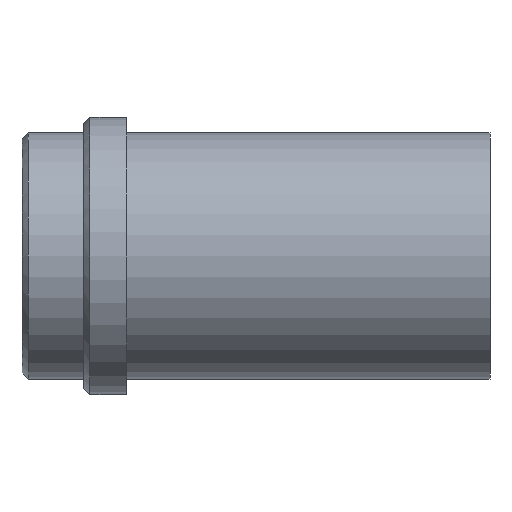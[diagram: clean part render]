
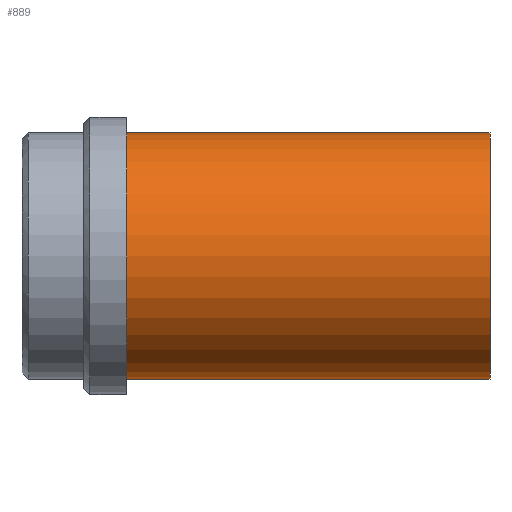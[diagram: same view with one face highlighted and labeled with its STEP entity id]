
A CAD part, front view. The second image highlights one B-rep face of the part: STEP entity #889.
In plain terms, the highlighted cylindrical face has radius 20 mm (diameter 40 mm), a partial arc.
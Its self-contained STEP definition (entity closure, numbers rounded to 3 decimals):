
#723=CARTESIAN_POINT('Vertex',(59.,0.,20.)) ;
#726=CARTESIAN_POINT('Axis2P3D Location',(59.,0.,0.)) ;
#730=CARTESIAN_POINT('Vertex',(59.,-20.,0.)) ;
#733=CARTESIAN_POINT('Axis2P3D Location',(59.,0.,0.)) ;
#737=CARTESIAN_POINT('Vertex',(59.,0.,-20.)) ;
#829=CARTESIAN_POINT('Line Origine',(59.,0.,20.)) ;
#833=CARTESIAN_POINT('Vertex',(0.,0.,20.)) ;
#836=CARTESIAN_POINT('Line Origine',(59.,0.,-20.)) ;
#840=CARTESIAN_POINT('Vertex',(0.,0.,-20.)) ;
#864=CARTESIAN_POINT('Axis2P3D Location',(59.,0.,0.)) ;
#869=CARTESIAN_POINT('Axis2P3D Location',(0.,0.,0.)) ;
#873=CARTESIAN_POINT('Vertex',(0.,-20.,0.)) ;
#876=CARTESIAN_POINT('Axis2P3D Location',(0.,0.,0.)) ;
#727=DIRECTION('Axis2P3D Direction',(1.,0.,-0.)) ;
#734=DIRECTION('Axis2P3D Direction',(1.,0.,-0.)) ;
#830=DIRECTION('Vector Direction',(-1.,0.,0.)) ;
#837=DIRECTION('Vector Direction',(-1.,0.,0.)) ;
#865=DIRECTION('Axis2P3D Direction',(-1.,-0.,-0.)) ;
#866=DIRECTION('Axis2P3D XDirection',(0.,0.,-1.)) ;
#870=DIRECTION('Axis2P3D Direction',(-1.,-0.,-0.)) ;
#877=DIRECTION('Axis2P3D Direction',(-1.,-0.,-0.)) ;
#728=AXIS2_PLACEMENT_3D('Circle Axis2P3D',#726,#727,$) ;
#735=AXIS2_PLACEMENT_3D('Circle Axis2P3D',#733,#734,$) ;
#867=AXIS2_PLACEMENT_3D('Cylinder Axis2P3D',#864,#865,#866) ;
#871=AXIS2_PLACEMENT_3D('Circle Axis2P3D',#869,#870,$) ;
#878=AXIS2_PLACEMENT_3D('Circle Axis2P3D',#876,#877,$) ;
#882=ORIENTED_EDGE('',*,*,#842,.T.) ;
#883=ORIENTED_EDGE('',*,*,#739,.F.) ;
#884=ORIENTED_EDGE('',*,*,#732,.F.) ;
#885=ORIENTED_EDGE('',*,*,#835,.T.) ;
#886=ORIENTED_EDGE('',*,*,#875,.T.) ;
#887=ORIENTED_EDGE('',*,*,#880,.T.) ;
#831=VECTOR('Line Direction',#830,1.) ;
#838=VECTOR('Line Direction',#837,1.) ;
#889=ADVANCED_FACE('358-32X76',(#888),#868,.T.) ;
#729=CIRCLE('generated circle',#728,20.) ;
#736=CIRCLE('generated circle',#735,20.) ;
#872=CIRCLE('generated circle',#871,20.) ;
#879=CIRCLE('generated circle',#878,20.) ;
#868=CYLINDRICAL_SURFACE('generated cylinder',#867,20.) ;
#732=EDGE_CURVE('',#724,#731,#729,.T.) ;
#739=EDGE_CURVE('',#731,#738,#736,.T.) ;
#835=EDGE_CURVE('',#724,#834,#832,.T.) ;
#842=EDGE_CURVE('',#841,#738,#839,.F.) ;
#875=EDGE_CURVE('',#834,#874,#872,.F.) ;
#880=EDGE_CURVE('',#874,#841,#879,.F.) ;
#881=EDGE_LOOP('',(#882,#883,#884,#885,#886,#887)) ;
#888=FACE_OUTER_BOUND('',#881,.T.) ;
#832=LINE('Line',#829,#831) ;
#839=LINE('Line',#836,#838) ;
#724=VERTEX_POINT('',#723) ;
#731=VERTEX_POINT('',#730) ;
#738=VERTEX_POINT('',#737) ;
#834=VERTEX_POINT('',#833) ;
#841=VERTEX_POINT('',#840) ;
#874=VERTEX_POINT('',#873) ;
